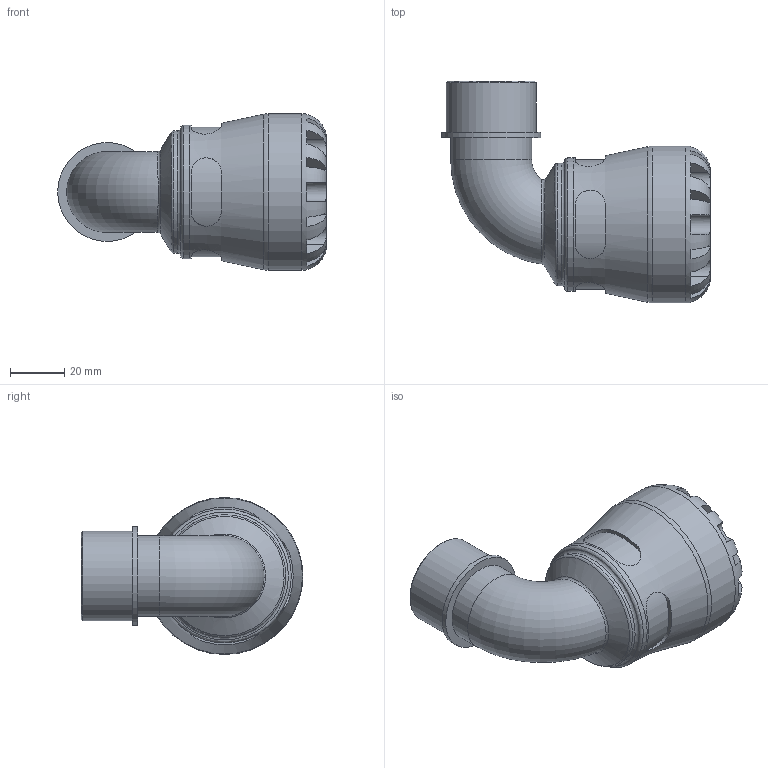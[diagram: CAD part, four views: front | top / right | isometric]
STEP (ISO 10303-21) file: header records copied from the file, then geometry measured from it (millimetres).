
FILE_DESCRIPTION(/* description */ ('PLASSON 90° ELBOW WITH THREADED MALE OFFTAKE 32X1" SERIES 1'),/* implementation_level */ '2;1');
FILE_NAME(/* name */ 'C:\Dropbox\KIMPROJECTS-Inventor\99-16-3568-Processing\1085\108500032010_198500032010.ipt.stp',/* time_stamp */ '2017-01-22T11:49:23+02:00',/* author */ ('KIM'),/* organization */ (''),/* preprocessor_version */ 'ST-DEVELOPER v15.6',/* originating_system */ 'Autodesk Inventor 2015',/* authorisation */ '');
FILE_SCHEMA (('AUTOMOTIVE_DESIGN { 1 0 10303 214 3 1 1 }'));
Length unit declared in the file: millimetre
Products named in the file (1): 108500032010_198500032010
Bounding box: 99.29 x 82 x 58 mm (x, y, z)
Volume: 103644.3 mm3; surface area: 31619.1 mm2
Topology: 1 solids, 1 shells, 110 faces, 269 edges, 167 vertices
Faces by surface type: plane 61, cylinder 37, torus 7, bspline 3, cone 2
Full cylindrical faces by diameter (mm): 23.274 x2, 29.924 x1, 32 x1, 33.249 x1, 36.574 x1, 45.24 x1, 49.3 x1, 58 x1
Entity records: 4316 total; most frequent: CARTESIAN_POINT 1776, ORIENTED_EDGE 488, DIRECTION 487, EDGE_CURVE 244, AXIS2_PLACEMENT_3D 203, VERTEX_POINT 161, EDGE_LOOP 137, STYLED_ITEM 111
